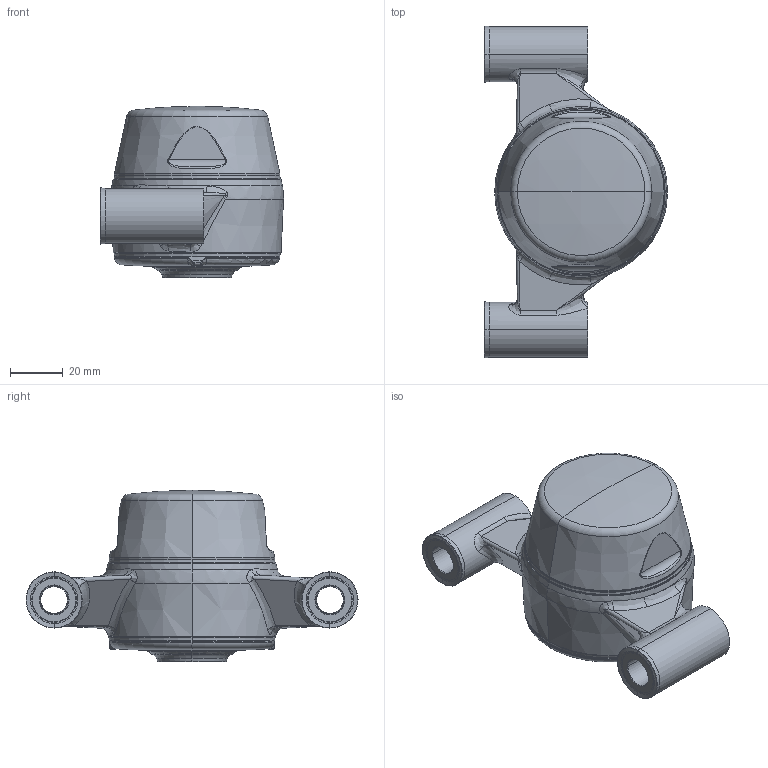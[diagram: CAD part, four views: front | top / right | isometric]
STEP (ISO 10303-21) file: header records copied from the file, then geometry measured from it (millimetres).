
FILE_DESCRIPTION (( 'STEP AP203' ), '1' );
FILE_NAME ('XBPBC52(Blue)-SSB2540(Front)-CL(Blue)-OS(Blue)_Shell.step', '2020-08-07T19:03:45', ( '' ), ( '' ), 'SwSTEP 2.0', 'SolidWorks 2019', '' );
FILE_SCHEMA (( 'CONFIG_CONTROL_DESIGN' ));
Length unit declared in the file: millimetre
Products named in the file (1): XBPBC52(Blue)-SSB2540(Front)-CL(Blue)-OS(Blue)_Shell
Bounding box: 69.69 x 126.4 x 65.25 mm (x, y, z)
Surface area: 35941 mm2 (no closed solid volume)
Topology: 0 solids, 20 shells, 256 faces, 762 edges, 514 vertices
Faces by surface type: bspline 82, cone 57, torus 44, cylinder 44, plane 23, sphere 6
Entity records: 14996 total; most frequent: CARTESIAN_POINT 8661, ORIENTED_EDGE 1282, DIRECTION 1253, EDGE_CURVE 762, AXIS2_PLACEMENT_3D 561, VERTEX_POINT 514, CIRCLE 386, EDGE_LOOP 275
